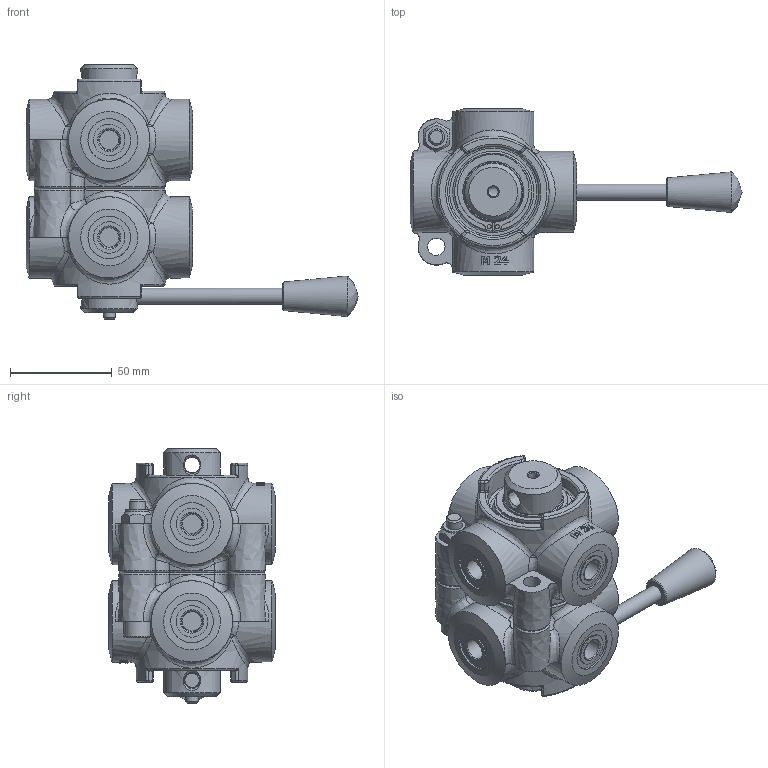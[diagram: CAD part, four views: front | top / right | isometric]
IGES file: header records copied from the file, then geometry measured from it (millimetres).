
Global section: file name: No Iges File Name specified; native system: Autodesk Inventor 2013; preprocessor: AutoDesk Inventor Iges Exporter R2013; author: christian.scardovi; date: 20240830.084728; units: millimetre
Bounding box: 163.5 x 82 x 125.25 mm (x, y, z)
Volume: 421718.6 mm3; surface area: 55943.5 mm2
Topology: 1 solids, 1 shells, 516 faces, 1209 edges, 719 vertices
Faces by surface type: bspline 516
